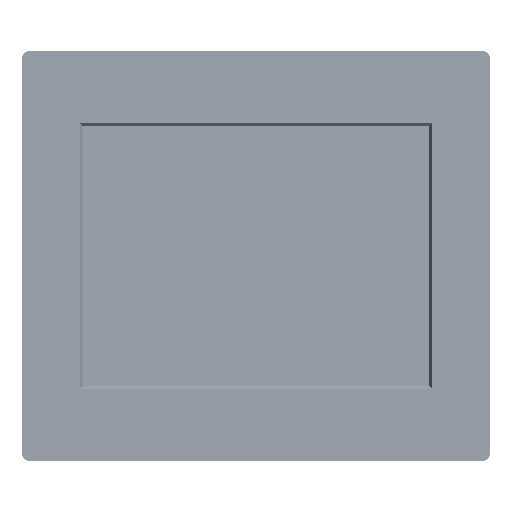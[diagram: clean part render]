
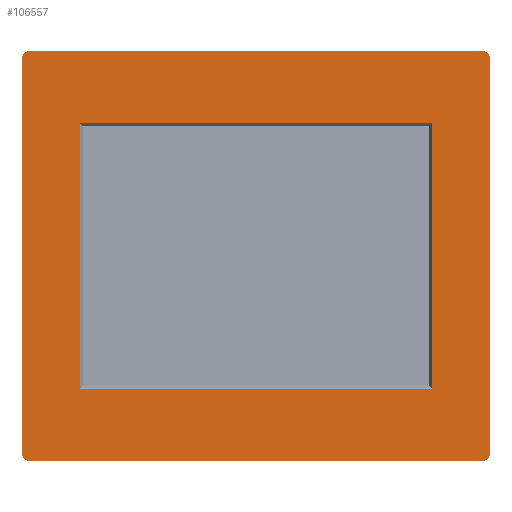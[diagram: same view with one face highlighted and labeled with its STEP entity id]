
A CAD part, top view. The second image highlights one B-rep face of the part: STEP entity #106557.
In plain terms, the highlighted planar face has unit normal (0, 0, 1).
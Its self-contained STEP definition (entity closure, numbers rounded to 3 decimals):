
#1108 = AXIS2_PLACEMENT_3D ( 'NONE', #121360, #235852, #208694 ) ;
#2906 = AXIS2_PLACEMENT_3D ( 'NONE', #203747, #97739, #165022 ) ;
#14730 = LINE ( 'NONE', #36191, #186667 ) ;
#19230 = CARTESIAN_POINT ( 'NONE',  ( 137.5, 120., 0. ) ) ;
#21185 = DIRECTION ( 'NONE',  ( 1., 0., 0. ) ) ;
#27532 = VERTEX_POINT ( 'NONE', #142508 ) ;
#28512 = AXIS2_PLACEMENT_3D ( 'NONE', #261942, #260511, #21185 ) ;
#30783 = ORIENTED_EDGE ( 'NONE', *, *, #169185, .T. ) ;
#31627 = LINE ( 'NONE', #121909, #111508 ) ;
#32695 = CARTESIAN_POINT ( 'NONE',  ( 107.1, -80.7, 0. ) ) ;
#33905 = VERTEX_POINT ( 'NONE', #219598 ) ;
#36191 = CARTESIAN_POINT ( 'NONE',  ( 107.1, -80.7, 0. ) ) ;
#36843 = CARTESIAN_POINT ( 'NONE',  ( -137.5, 125., 0. ) ) ;
#38258 = LINE ( 'NONE', #36843, #231231 ) ;
#39503 = VERTEX_POINT ( 'NONE', #223080 ) ;
#41250 = LINE ( 'NONE', #128721, #133232 ) ;
#45489 = DIRECTION ( 'NONE',  ( 0., 1., 0. ) ) ;
#47017 = VERTEX_POINT ( 'NONE', #254022 ) ;
#47327 = DIRECTION ( 'NONE',  ( 1., 0., 0. ) ) ;
#68360 = LINE ( 'NONE', #243188, #147721 ) ;
#69151 = ORIENTED_EDGE ( 'NONE', *, *, #151641, .F. ) ;
#69799 = DIRECTION ( 'NONE',  ( 0., -1., 0. ) ) ;
#72079 = ORIENTED_EDGE ( 'NONE', *, *, #282602, .T. ) ;
#81950 = VERTEX_POINT ( 'NONE', #32695 ) ;
#83157 = DIRECTION ( 'NONE',  ( -1., 0., 0. ) ) ;
#84809 = VERTEX_POINT ( 'NONE', #202549 ) ;
#87059 = VERTEX_POINT ( 'NONE', #128839 ) ;
#90604 = ORIENTED_EDGE ( 'NONE', *, *, #113403, .T. ) ;
#91766 = CARTESIAN_POINT ( 'NONE',  ( -107.1, -80.7, 0. ) ) ;
#95670 = VERTEX_POINT ( 'NONE', #175577 ) ;
#97739 = DIRECTION ( 'NONE',  ( 0., 0., 1. ) ) ;
#99157 = EDGE_CURVE ( 'NONE', #242569, #272331, #139693, .T. ) ;
#99679 = ORIENTED_EDGE ( 'NONE', *, *, #252326, .F. ) ;
#106557 = ADVANCED_FACE ( 'NONE', ( #204051, #139602 ), #226983, .F. ) ;
#106675 = DIRECTION ( 'NONE',  ( -1., 0., 0. ) ) ;
#107366 = EDGE_LOOP ( 'NONE', ( #90604, #274031, #213773, #72079, #202037, #119069, #201040, #30783 ) ) ;
#109056 = CARTESIAN_POINT ( 'NONE',  ( 142.5, 120., 0. ) ) ;
#109161 = VECTOR ( 'NONE', #207688, 1000. ) ;
#111508 = VECTOR ( 'NONE', #83157, 1000. ) ;
#113092 = EDGE_CURVE ( 'NONE', #84809, #175610, #261953, .T. ) ;
#113403 = EDGE_CURVE ( 'NONE', #95670, #27532, #138415, .T. ) ;
#113882 = CARTESIAN_POINT ( 'NONE',  ( -137.5, -120., 0. ) ) ;
#116897 = ORIENTED_EDGE ( 'NONE', *, *, #210602, .F. ) ;
#117038 = EDGE_LOOP ( 'NONE', ( #116897, #185429, #99679, #69151 ) ) ;
#119069 = ORIENTED_EDGE ( 'NONE', *, *, #150665, .T. ) ;
#119450 = DIRECTION ( 'NONE',  ( 0., 1., 0. ) ) ;
#120356 = CARTESIAN_POINT ( 'NONE',  ( -137.5, -125., 0. ) ) ;
#121360 = CARTESIAN_POINT ( 'NONE',  ( -137.5, -120., 0. ) ) ;
#121909 = CARTESIAN_POINT ( 'NONE',  ( -107.1, 80.7, 0. ) ) ;
#128721 = CARTESIAN_POINT ( 'NONE',  ( 142.5, -120., 0. ) ) ;
#128839 = CARTESIAN_POINT ( 'NONE',  ( -107.1, -80.7, 0. ) ) ;
#128877 = EDGE_CURVE ( 'NONE', #81950, #39503, #14730, .T. ) ;
#131342 = LINE ( 'NONE', #132747, #134883 ) ;
#132747 = CARTESIAN_POINT ( 'NONE',  ( -107.1, -80.7, 0. ) ) ;
#133232 = VECTOR ( 'NONE', #45489, 1000. ) ;
#134883 = VECTOR ( 'NONE', #150023, 1000. ) ;
#138158 = VERTEX_POINT ( 'NONE', #248537 ) ;
#138415 = CIRCLE ( 'NONE', #1108, 5. ) ;
#139602 = FACE_OUTER_BOUND ( 'NONE', #107366, .T. ) ;
#139693 = CIRCLE ( 'NONE', #281446, 5. ) ;
#142368 = EDGE_CURVE ( 'NONE', #27532, #84809, #229210, .T. ) ;
#142508 = CARTESIAN_POINT ( 'NONE',  ( -137.5, -125., 0. ) ) ;
#147721 = VECTOR ( 'NONE', #69799, 1000. ) ;
#150023 = DIRECTION ( 'NONE',  ( 0., -1., 0. ) ) ;
#150665 = EDGE_CURVE ( 'NONE', #272331, #47017, #38258, .T. ) ;
#151641 = EDGE_CURVE ( 'NONE', #138158, #87059, #131342, .T. ) ;
#162494 = DIRECTION ( 'NONE',  ( -1., 0., 0. ) ) ;
#165022 = DIRECTION ( 'NONE',  ( -1., 0., 0. ) ) ;
#168696 = DIRECTION ( 'NONE',  ( -1., 0., 0. ) ) ;
#169185 = EDGE_CURVE ( 'NONE', #33905, #95670, #68360, .T. ) ;
#175577 = CARTESIAN_POINT ( 'NONE',  ( -142.5, -120., 0. ) ) ;
#175610 = VERTEX_POINT ( 'NONE', #224215 ) ;
#182412 = EDGE_CURVE ( 'NONE', #47017, #33905, #245549, .T. ) ;
#185429 = ORIENTED_EDGE ( 'NONE', *, *, #128877, .F. ) ;
#186667 = VECTOR ( 'NONE', #119450, 1000. ) ;
#201040 = ORIENTED_EDGE ( 'NONE', *, *, #182412, .T. ) ;
#201222 = DIRECTION ( 'NONE',  ( 0., 0., -1. ) ) ;
#202037 = ORIENTED_EDGE ( 'NONE', *, *, #99157, .T. ) ;
#202549 = CARTESIAN_POINT ( 'NONE',  ( 137.5, -125., 0. ) ) ;
#203747 = CARTESIAN_POINT ( 'NONE',  ( -137.5, 120., 0. ) ) ;
#204051 = FACE_BOUND ( 'NONE', #117038, .T. ) ;
#207688 = DIRECTION ( 'NONE',  ( 1., 0., 0. ) ) ;
#208694 = DIRECTION ( 'NONE',  ( -1., 0., 0. ) ) ;
#210602 = EDGE_CURVE ( 'NONE', #39503, #138158, #31627, .T. ) ;
#213773 = ORIENTED_EDGE ( 'NONE', *, *, #113092, .T. ) ;
#219598 = CARTESIAN_POINT ( 'NONE',  ( -142.5, 120., 0. ) ) ;
#221178 = DIRECTION ( 'NONE',  ( 0., 0., 1. ) ) ;
#223080 = CARTESIAN_POINT ( 'NONE',  ( 107.1, 80.7, 0. ) ) ;
#224215 = CARTESIAN_POINT ( 'NONE',  ( 142.5, -120., 0. ) ) ;
#226983 = PLANE ( 'NONE',  #281638 ) ;
#229210 = LINE ( 'NONE', #120356, #109161 ) ;
#231231 = VECTOR ( 'NONE', #168696, 1000. ) ;
#235852 = DIRECTION ( 'NONE',  ( 0., 0., 1. ) ) ;
#242569 = VERTEX_POINT ( 'NONE', #109056 ) ;
#243188 = CARTESIAN_POINT ( 'NONE',  ( -142.5, -120., 0. ) ) ;
#245057 = LINE ( 'NONE', #91766, #261318 ) ;
#245549 = CIRCLE ( 'NONE', #2906, 5. ) ;
#248537 = CARTESIAN_POINT ( 'NONE',  ( -107.1, 80.7, 0. ) ) ;
#250790 = CARTESIAN_POINT ( 'NONE',  ( 137.5, 125., 0. ) ) ;
#252326 = EDGE_CURVE ( 'NONE', #87059, #81950, #245057, .T. ) ;
#254022 = CARTESIAN_POINT ( 'NONE',  ( -137.5, 125., 0. ) ) ;
#260511 = DIRECTION ( 'NONE',  ( 0., 0., 1. ) ) ;
#261318 = VECTOR ( 'NONE', #47327, 1000. ) ;
#261942 = CARTESIAN_POINT ( 'NONE',  ( 137.5, -120., 0. ) ) ;
#261953 = CIRCLE ( 'NONE', #28512, 5. ) ;
#272331 = VERTEX_POINT ( 'NONE', #250790 ) ;
#274031 = ORIENTED_EDGE ( 'NONE', *, *, #142368, .T. ) ;
#281446 = AXIS2_PLACEMENT_3D ( 'NONE', #19230, #221178, #106675 ) ;
#281638 = AXIS2_PLACEMENT_3D ( 'NONE', #113882, #201222, #162494 ) ;
#282602 = EDGE_CURVE ( 'NONE', #175610, #242569, #41250, .T. ) ;
